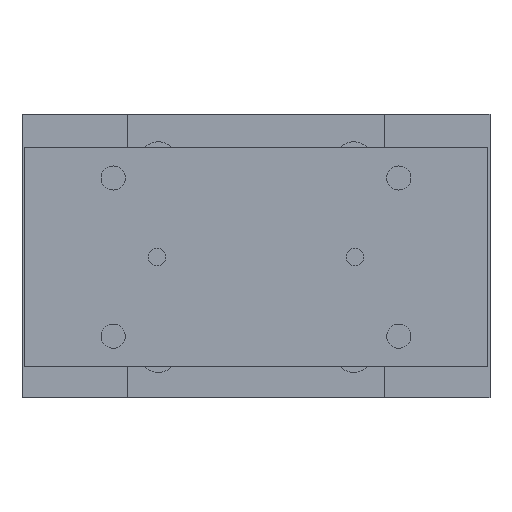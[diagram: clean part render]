
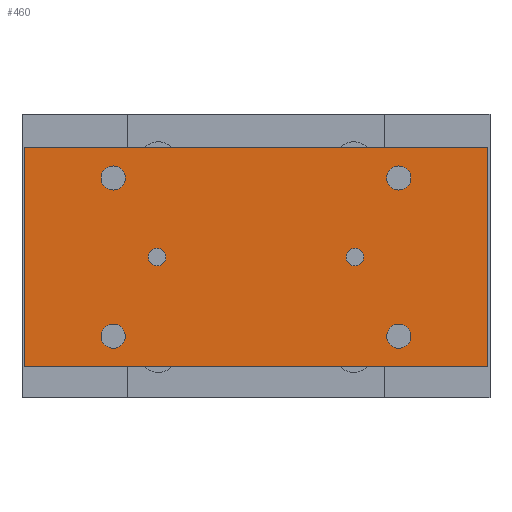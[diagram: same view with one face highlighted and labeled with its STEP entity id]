
A CAD part, left-side view. The second image highlights one B-rep face of the part: STEP entity #460.
In plain terms, the highlighted planar face has unit normal (-1, 0, 0).
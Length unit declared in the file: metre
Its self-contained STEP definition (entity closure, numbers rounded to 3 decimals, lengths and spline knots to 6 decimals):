
#460 = ADVANCED_FACE( '', ( #1090, #1091, #1092, #1093, #1094, #1095, #1096 ), #1097, .T. );
#1090 = FACE_BOUND( '', #1888, .T. );
#1091 = FACE_BOUND( '', #1889, .T. );
#1092 = FACE_BOUND( '', #1890, .T. );
#1093 = FACE_BOUND( '', #1891, .T. );
#1094 = FACE_BOUND( '', #1892, .T. );
#1095 = FACE_BOUND( '', #1893, .T. );
#1096 = FACE_OUTER_BOUND( '', #1894, .T. );
#1097 = PLANE( '', #1895 );
#1888 = EDGE_LOOP( '', ( #3039 ) );
#1889 = EDGE_LOOP( '', ( #3040 ) );
#1890 = EDGE_LOOP( '', ( #3041 ) );
#1891 = EDGE_LOOP( '', ( #3042 ) );
#1892 = EDGE_LOOP( '', ( #3043 ) );
#1893 = EDGE_LOOP( '', ( #3044 ) );
#1894 = EDGE_LOOP( '', ( #3045, #3046, #3047, #3048 ) );
#1895 = AXIS2_PLACEMENT_3D( '', #3049, #3050, #3051 );
#3039 = ORIENTED_EDGE( '', *, *, #4141, .F. );
#3040 = ORIENTED_EDGE( '', *, *, #3939, .F. );
#3041 = ORIENTED_EDGE( '', *, *, #4142, .F. );
#3042 = ORIENTED_EDGE( '', *, *, #4143, .F. );
#3043 = ORIENTED_EDGE( '', *, *, #4144, .F. );
#3044 = ORIENTED_EDGE( '', *, *, #3809, .T. );
#3045 = ORIENTED_EDGE( '', *, *, #4134, .T. );
#3046 = ORIENTED_EDGE( '', *, *, #4145, .T. );
#3047 = ORIENTED_EDGE( '', *, *, #4004, .T. );
#3048 = ORIENTED_EDGE( '', *, *, #4146, .T. );
#3049 = CARTESIAN_POINT( '', ( -0.1445, -0.1055, -0.015 ) );
#3050 = DIRECTION( '', ( -1., 0., 0. ) );
#3051 = DIRECTION( '', ( 0., -1., 0. ) );
#3809 = EDGE_CURVE( '', #4385, #4385, #4386, .T. );
#3939 = EDGE_CURVE( '', #4603, #4603, #4604, .T. );
#4004 = EDGE_CURVE( '', #4710, #4708, #4711, .T. );
#4134 = EDGE_CURVE( '', #4901, #4899, #4902, .T. );
#4141 = EDGE_CURVE( '', #4911, #4911, #4912, .T. );
#4142 = EDGE_CURVE( '', #4913, #4913, #4914, .T. );
#4143 = EDGE_CURVE( '', #4915, #4915, #4916, .T. );
#4144 = EDGE_CURVE( '', #4917, #4917, #4918, .T. );
#4145 = EDGE_CURVE( '', #4899, #4710, #4919, .T. );
#4146 = EDGE_CURVE( '', #4708, #4901, #4920, .T. );
#4385 = VERTEX_POINT( '', #5206 );
#4386 = CIRCLE( '', #5207, 0.004 );
#4603 = VERTEX_POINT( '', #5517 );
#4604 = CIRCLE( '', #5518, 0.0055 );
#4708 = VERTEX_POINT( '', #5643 );
#4710 = VERTEX_POINT( '', #5646 );
#4711 = LINE( '', #5647, #5648 );
#4899 = VERTEX_POINT( '', #5988 );
#4901 = VERTEX_POINT( '', #5991 );
#4902 = LINE( '', #5992, #5993 );
#4911 = VERTEX_POINT( '', #6003 );
#4912 = CIRCLE( '', #6004, 0.0055 );
#4913 = VERTEX_POINT( '', #6005 );
#4914 = CIRCLE( '', #6006, 0.0055 );
#4915 = VERTEX_POINT( '', #6007 );
#4916 = CIRCLE( '', #6008, 0.0055 );
#4917 = VERTEX_POINT( '', #6009 );
#4918 = CIRCLE( '', #6010, 0.004 );
#4919 = LINE( '', #6011, #6012 );
#4920 = LINE( '', #6013, #6014 );
#5206 = CARTESIAN_POINT( '', ( -0.1445, 0.045, -0.069 ) );
#5207 = AXIS2_PLACEMENT_3D( '', #6487, #6488, #6489 );
#5517 = CARTESIAN_POINT( '', ( -0.1445, 0.0595, -0.101 ) );
#5518 = AXIS2_PLACEMENT_3D( '', #6646, #6647, #6648 );
#5643 = CARTESIAN_POINT( '', ( -0.1445, 0.1055, -0.115 ) );
#5646 = CARTESIAN_POINT( '', ( -0.1445, 0.1055, -0.015 ) );
#5647 = CARTESIAN_POINT( '', ( -0.1445, 0.1055, -0.015 ) );
#5648 = VECTOR( '', #6743, 1. );
#5988 = CARTESIAN_POINT( '', ( -0.1445, -0.1055, -0.015 ) );
#5991 = CARTESIAN_POINT( '', ( -0.1445, -0.1055, -0.115 ) );
#5992 = CARTESIAN_POINT( '', ( -0.1445, -0.1055, -0.115 ) );
#5993 = VECTOR( '', #6876, 1. );
#6003 = CARTESIAN_POINT( '', ( -0.1445, -0.0705, -0.101 ) );
#6004 = AXIS2_PLACEMENT_3D( '', #6884, #6885, #6886 );
#6005 = CARTESIAN_POINT( '', ( -0.1445, -0.0705, -0.029 ) );
#6006 = AXIS2_PLACEMENT_3D( '', #6887, #6888, #6889 );
#6007 = CARTESIAN_POINT( '', ( -0.1445, 0.0595, -0.029 ) );
#6008 = AXIS2_PLACEMENT_3D( '', #6890, #6891, #6892 );
#6009 = CARTESIAN_POINT( '', ( -0.1445, -0.045, -0.069 ) );
#6010 = AXIS2_PLACEMENT_3D( '', #6893, #6894, #6895 );
#6011 = CARTESIAN_POINT( '', ( -0.1445, -0.1055, -0.015 ) );
#6012 = VECTOR( '', #6896, 1. );
#6013 = CARTESIAN_POINT( '', ( -0.1445, 0.1055, -0.115 ) );
#6014 = VECTOR( '', #6897, 1. );
#6487 = CARTESIAN_POINT( '', ( -0.1445, 0.045, -0.065 ) );
#6488 = DIRECTION( '', ( 1., 0., 0. ) );
#6489 = DIRECTION( '', ( 0., 0., -1. ) );
#6646 = CARTESIAN_POINT( '', ( -0.1445, 0.065, -0.101 ) );
#6647 = DIRECTION( '', ( -1., 0., 0. ) );
#6648 = DIRECTION( '', ( 0., -1., 0. ) );
#6743 = DIRECTION( '', ( 0., 0., -1. ) );
#6876 = DIRECTION( '', ( 0., 0., 1. ) );
#6884 = CARTESIAN_POINT( '', ( -0.1445, -0.065, -0.101 ) );
#6885 = DIRECTION( '', ( -1., 0., 0. ) );
#6886 = DIRECTION( '', ( 0., -1., 0. ) );
#6887 = CARTESIAN_POINT( '', ( -0.1445, -0.065, -0.029 ) );
#6888 = DIRECTION( '', ( -1., 0., 0. ) );
#6889 = DIRECTION( '', ( 0., -1., 0. ) );
#6890 = CARTESIAN_POINT( '', ( -0.1445, 0.065, -0.029 ) );
#6891 = DIRECTION( '', ( -1., 0., 0. ) );
#6892 = DIRECTION( '', ( 0., -1., 0. ) );
#6893 = CARTESIAN_POINT( '', ( -0.1445, -0.045, -0.065 ) );
#6894 = DIRECTION( '', ( -1., 0., 0. ) );
#6895 = DIRECTION( '', ( 0., 0., -1. ) );
#6896 = DIRECTION( '', ( 0., 1., 0. ) );
#6897 = DIRECTION( '', ( 0., -1., 0. ) );
